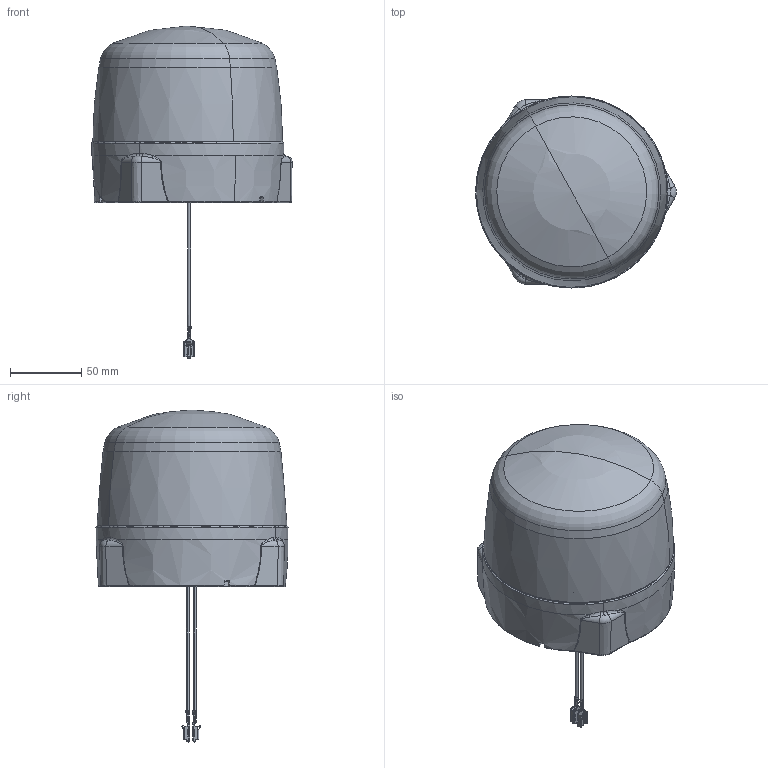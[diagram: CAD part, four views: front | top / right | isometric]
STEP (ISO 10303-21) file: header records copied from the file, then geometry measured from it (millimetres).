
FILE_DESCRIPTION(('CATIA V5 STEP Exchange','CAx-IF Rec.Pracs.--- Model Styling and Organization---1.5--- 2016-08-15','CAx-IF Rec.Pracs.---Supplemental Geometry---1.0---2011-11-01','CAx-IF Rec.Pracs.--- Composite Materials ---1.1---2010-07-15'),'2;1');
FILE_NAME('E:\tmp\ddx\2011221\HELLA_3D_data_Rota_LED_magnet_2RL-010-979-02.stp','2022-01-18T07:27:28+00:00',('none'),('none'),'CATIA Version 5-6 Release 2020 SP3 HF9','CATIA V5 STEP AP214 Edition 3 v2','none');
FILE_SCHEMA(('AUTOMOTIVE_DESIGN { 1 0 10303 214 3 1 1 1 }'));
Length unit declared in the file: millimetre
Products named in the file (1): 10001097045_D10_001
Bounding box: 141 x 135 x 233.42 mm (x, y, z)
Volume: 975773.8 mm3; surface area: 169707.6 mm2
Topology: 1 solids, 3 shells, 1070 faces, 2829 edges, 1778 vertices
Faces by surface type: plane 356, cylinder 286, bspline 169, torus 136, cone 91, sphere 22, revolution 6, extrusion 4
Entity records: 43997 total; most frequent: CARTESIAN_POINT 20672, ORIENTED_EDGE 5646, DIRECTION 3398, EDGE_CURVE 2823, VERTEX_POINT 1778, AXIS2_PLACEMENT_3D 1493, EDGE_LOOP 1131, VECTOR 1094
